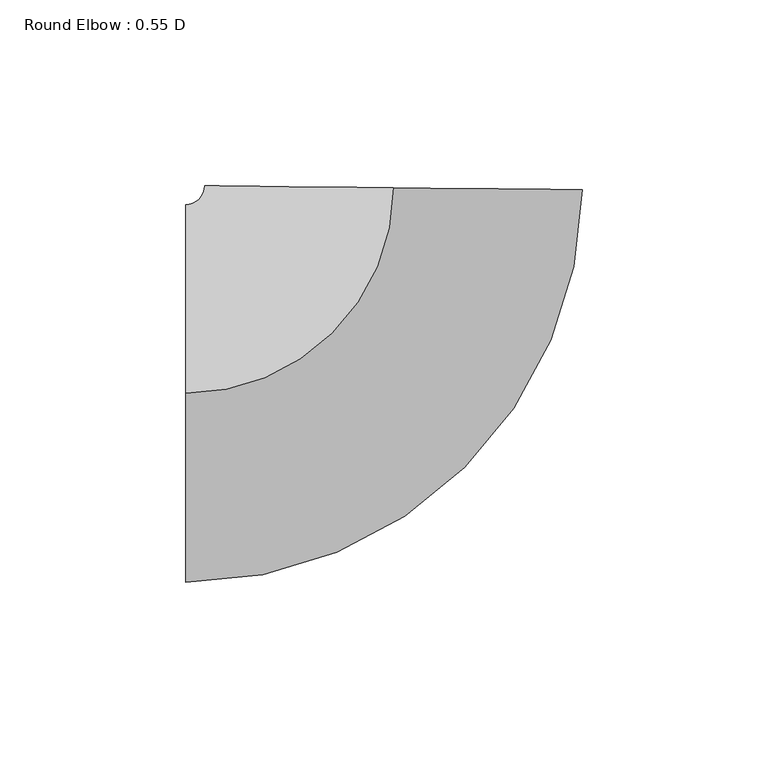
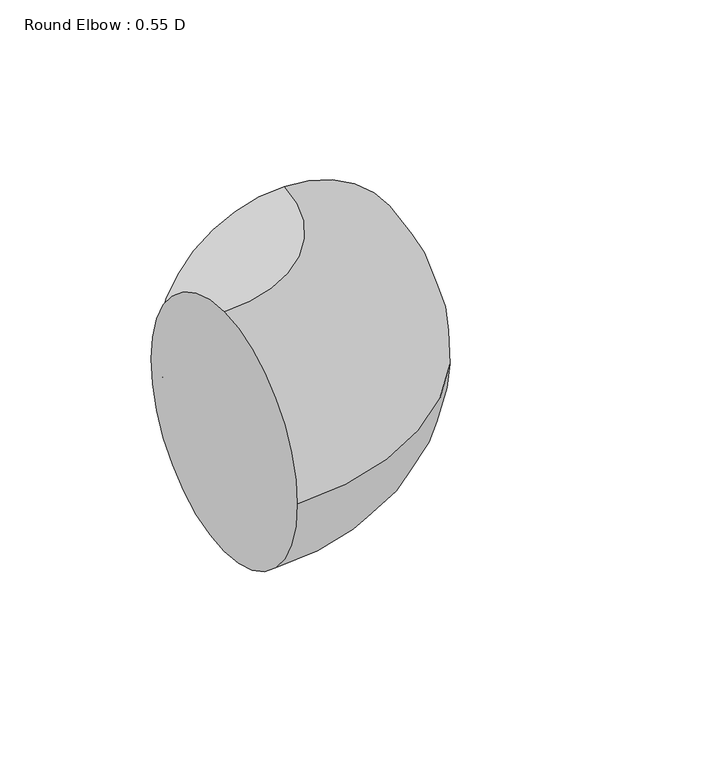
"""IFC4 building model written with IfcOpenShell, lengths in millimetres: duct fitting geometry, Round Elbow : 0.55 D."""

from ifc_helpers import new_model, si_unit, point, frame, origin, place, context, project, spatial, circle_curve, ellipse_curve, trimmed, source, transform, mapped, element, save
from ifc_brep_helpers import plane_surface, revolved_surface, advanced_brep


def round_elbow_0_55_d_c1909886(model_context):
    return source(origin(), model_context, "Body", "AdvancedBrep", [
        advanced_brep(
        [(-55.2986772, 0.0, 50.8), (-55.2986772, 50.8, 0.0), (-55.2986772, 0.0, -50.8), (-55.2986772, -50.8, 0.0), (0.5782674, 55.2956536, 50.8), (51.3754897, 54.7644297, 0.0), (0.5782674, 55.2956536, -50.8), (-50.218955, 55.8268776, 0.0)],
        [
            (0, 1, circle_curve(frame((-55.2986772, 0.0, 0.0), z_axis=(-1.0, 0.0, 0.0), x_axis=(0.0, 1.0, 0.0)), 50.8)),
            (1, 2, circle_curve(frame((-55.2986772, 0.0, 0.0), z_axis=(-1.0, 0.0, 0.0), x_axis=(0.0, 1.0, 0.0)), 50.8)),
            (2, 3, circle_curve(frame((-55.2986772, 0.0, 0.0), z_axis=(-1.0, 0.0, 0.0), x_axis=(0.0, 1.0, 0.0)), 50.8)),
            (3, 0, circle_curve(frame((-55.2986772, 0.0, 0.0), z_axis=(-1.0, 0.0, 0.0), x_axis=(0.0, 1.0, 0.0)), 50.8)),
            (4, 5, circle_curve(frame((0.5782674, 55.2956536, 0.0), z_axis=(0.010457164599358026, 0.9999453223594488, 0.0), x_axis=(-0.9999453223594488, 0.010457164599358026, 0.0)), 50.8)),
            (5, 6, circle_curve(frame((0.5782674, 55.2956536, 0.0), z_axis=(0.010457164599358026, 0.9999453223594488, 0.0), x_axis=(-0.9999453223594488, 0.010457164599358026, 0.0)), 50.8)),
            (6, 7, circle_curve(frame((0.5782674, 55.2956536, 0.0), z_axis=(0.010457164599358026, 0.9999453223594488, 0.0), x_axis=(-0.9999453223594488, 0.010457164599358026, 0.0)), 50.8)),
            (7, 4, circle_curve(frame((0.5782674, 55.2956536, 0.0), z_axis=(0.010457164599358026, 0.9999453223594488, 0.0), x_axis=(-0.9999453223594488, 0.010457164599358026, 0.0)), 50.8)),
            (7, 1, circle_curve(frame((-55.2986772, 55.88, 0.0), z_axis=(0.0, 0.0, -1.0), x_axis=(0.0, -1.0, 0.0)), 5.08)),
            (0, 4, circle_curve(frame((-55.2986772, 55.88, 50.8), z_axis=(0.0, 0.0, 1.0), x_axis=(0.0, -1.0, 0.0)), 55.88)),
            (6, 2, circle_curve(frame((-55.2986772, 55.88, -50.8), z_axis=(0.0, 0.0, -1.0), x_axis=(0.0, -1.0, 0.0)), 55.88)),
            (5, 3, circle_curve(frame((-55.2986772, 55.88, 0.0), z_axis=(0.0, 0.0, -1.0), x_axis=(0.0, -1.0, 0.0)), 106.68)),
        ],
        [
            plane_surface(frame((-55.2986772, 0.0, 0.0), z_axis=(-1.0, 0.0, 0.0), x_axis=(0.0, 0.0, 1.0))),
            plane_surface(frame((0.5782674, 55.2956536, 0.0), z_axis=(0.010457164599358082, 0.9999453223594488, 0.0), x_axis=(0.0, 0.0, 1.0))),
            revolved_surface(trimmed(ellipse_curve(frame((-55.2986772, 0.0, 0.0), z_axis=(-1.0, 0.0, 0.0), x_axis=(0.0, 1.0, 0.0)), 50.8, 50.8), [point((-55.2986772, 0.0, 50.8))], [point((-55.2986772, 50.8, 0.0))], True, "CARTESIAN"), (-55.2986772, 55.88, 0.0), (0.0, 0.0, 1.0)),
            revolved_surface(trimmed(ellipse_curve(frame((-55.2986772, 0.0, 0.0), z_axis=(-1.0, 0.0, 0.0), x_axis=(0.0, 1.0, 0.0)), 50.8, 50.8), [point((-55.2986772, 50.8, 0.0))], [point((-55.2986772, 0.0, -50.8))], True, "CARTESIAN"), (-55.2986772, 55.88, 0.0), (0.0, 0.0, 1.0)),
            revolved_surface(trimmed(ellipse_curve(frame((-55.2986772, 0.0, 0.0), z_axis=(-1.0, 0.0, 0.0), x_axis=(0.0, 1.0, 0.0)), 50.8, 50.8), [point((-55.2986772, 0.0, -50.8))], [point((-55.2986772, -50.8, 0.0))], True, "CARTESIAN"), (-55.2986772, 55.88, 0.0), (0.0, 0.0, 1.0)),
            revolved_surface(trimmed(ellipse_curve(frame((-55.2986772, 0.0, 0.0), z_axis=(-1.0, 0.0, 0.0), x_axis=(0.0, 1.0, 0.0)), 50.8, 50.8), [point((-55.2986772, -50.8, 0.0))], [point((-55.2986772, 0.0, 50.8))], True, "CARTESIAN"), (-55.2986772, 55.88, 0.0), (0.0, 0.0, 1.0)),
        ],
        [
            (0, [[1, 2, 3, 4]]),
            (1, [[5, 6, 7, 8]]),
            (2, [[9, -1, 10, -8]]),
            (3, [[11, -2, -9, -7]]),
            (4, [[12, -3, -11, -6]]),
            (5, [[-10, -4, -12, -5]]),
        ],
    ),
    ])


if __name__ == "__main__":
    model = new_model("IFC4")
    model_context = context("Model", 3, world=origin())
    ifc_project = project(units=[si_unit("LENGTHUNIT", "METRE", prefix="MILLI")], contexts=[model_context])
    site = spatial("IfcSite", under=ifc_project)
    building = spatial("IfcBuilding", under=site)
    placement = place(None, origin())
    round_elbow_0_55_d_shape = round_elbow_0_55_d_c1909886(model_context)
    element("IfcDuctFitting", 1, ObjectType="Round Elbow : 0.55 D", at=placement, inside=building, context=model_context, shape_type="MappedRepresentation", body=[
        mapped(round_elbow_0_55_d_shape, transform((0.0, 0.0, 0.0), x_axis=(1.0, 0.0, 0.0), y_axis=(0.0, 1.0, 0.0), z_axis=(0.0, 0.0, 1.0))),
    ])
    save(model, "model.ifc")
